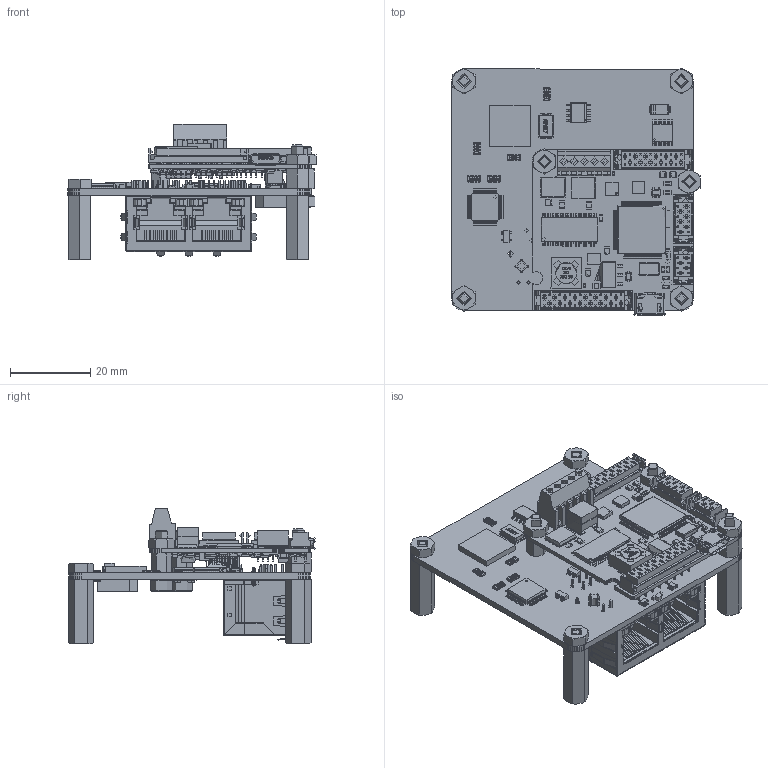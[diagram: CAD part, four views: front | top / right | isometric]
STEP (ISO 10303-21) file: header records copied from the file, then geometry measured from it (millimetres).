
FILE_DESCRIPTION (( 'STEP AP214' ), '1' );
FILE_NAME ('NEP-248-E-S.STEP', '2016-05-02T11:13:31', ( '' ), ( '' ), 'SwSTEP 2.0', 'SolidWorks 2016', '' );
FILE_SCHEMA (( 'AUTOMOTIVE_DESIGN' ));
Length unit declared in the file: millimetre
Products named in the file (388): User_Library-TQFP-48_pins_TQFP_pin_TQFP_022x07_1; SW3dPS-SOD-323F_Extruded11; Sphere_5; Sphere_8; User_Library-Array-1206-4Way-Var1_K_X_F6rper_1; User_Library-Array-1206-4Way-Var1_Anschl_X_FCsse_1; M3-_HFST-Z100-; User_Library-Array-1206-4Way-Var1_Deckel_1; Insulator_2; User_Library-Xtal-ABM7_abm7case; Board; SW3dPS-SOD-323F_Extruded6; Insulator; User_Library-Xtal-ABM7_abm7pad; User_Library-Array-1206-4Way-Var1_Beschriftung_1; Sphere; SW3dPS-SOD-323F_Board3; SO8; i032-101R_BASIC_1; M1252-3005-SS; SW3dPS-SOD-323F_Extruded8; SW3dPS-SOD-323F_Extruded9; SOT143; User_Library-TQFP-48_body_10x1_TQFP_7x7_1; 05.13.053; Sphere_4; Sphere_6; SW3dPS-SW3dPS-SOT363; M312-SOA2CSS50-; SW3dPS-SOD-323F_Extruded7; SW3dPS-SOD-323F_Extruded10; 971160321-4; Extruded; Extruded_2; SW3dPS-SOD-323F_Board4; SOLID; User_Library-SM1204XXX; NEP-248-E-S; User_Library-DO-214AC_SMA; Sphere_3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
Assembly tree (327 placements, depth 2):
  User_Library-TQFP-48_pins_TQFP_pin_TQFP_022x07_1
  SW3dPS-SOD-323F_Extruded11
  User_Library-TQFP-48_pins_TQFP_pin_TQFP_022x07_1
  Sphere_5
  User_Library-TQFP-48_pins_TQFP_pin_TQFP_022x07_1
Bounding box: 61.74 x 61.51 x 33.62 mm (x, y, z)
Topology: 0 solids, 812 shells, 14029 faces, 43128 edges, 29632 vertices
Faces by surface type: plane 10022, cylinder 2376, bspline 1576, cone 54, sphere 1
Full cylindrical faces by diameter (mm): 0.025 x3, 0.25 x4, 0.3 x2, 0.4 x3, 0.527 x3, 0.6 x2, 0.7 x16, 0.754 x1, 0.8 x40, 0.9 x19, 1 x5, 1.1 x8, 1.5 x4, 1.63 x3, 2.1 x5, 3 x8, 3.15 x13, 3.2 x7, 3.25 x2, 5.2 x1, 5.25 x1, 5.5 x2
Entity records: 385761 total; most frequent: CARTESIAN_POINT 80855, ORIENTED_EDGE 48547, DIRECTION 46967, EDGE_CURVE 29197, LINE 23157, VECTOR 23157, VERTEX_POINT 20496, AXIS2_PLACEMENT_3D 11905
